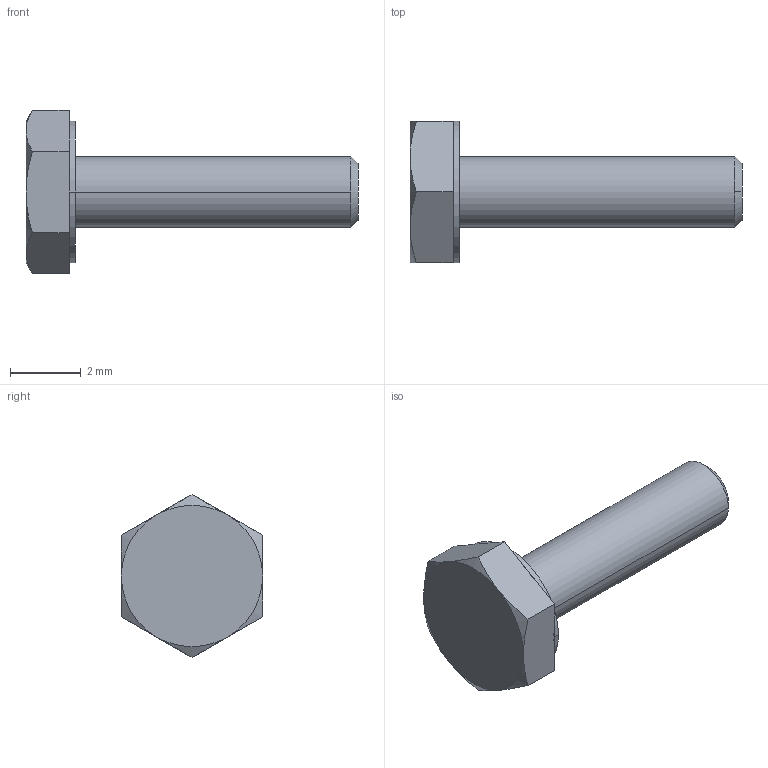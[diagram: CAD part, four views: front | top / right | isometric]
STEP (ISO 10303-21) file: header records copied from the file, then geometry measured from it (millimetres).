
FILE_DESCRIPTION((''),'2;1');
FILE_NAME('HEX_BOLT_M2X8','2025-07-21T10:52:40',('tilla'),(''),'CREO PARAMETRIC BY PTC INC, 2024063','CREO PARAMETRIC BY PTC INC, 2024063','');
FILE_SCHEMA(('CONFIG_CONTROL_DESIGN'));
Length unit declared in the file: millimetre
Products named in the file (1): HEX_BOLT_M2X8
Bounding box: 9.4 x 4 x 4.62 mm (x, y, z)
Volume: 44.1 mm3; surface area: 137.1 mm2
Topology: 1 solids, 2 shells, 30 faces, 66 edges, 40 vertices
Faces by surface type: plane 16, cone 8, cylinder 6
Entity records: 884 total; most frequent: CARTESIAN_POINT 179, DIRECTION 144, ORIENTED_EDGE 128, EDGE_CURVE 66, AXIS2_PLACEMENT_3D 59, VERTEX_POINT 40, EDGE_LOOP 32, FACE_OUTER_BOUND 30
